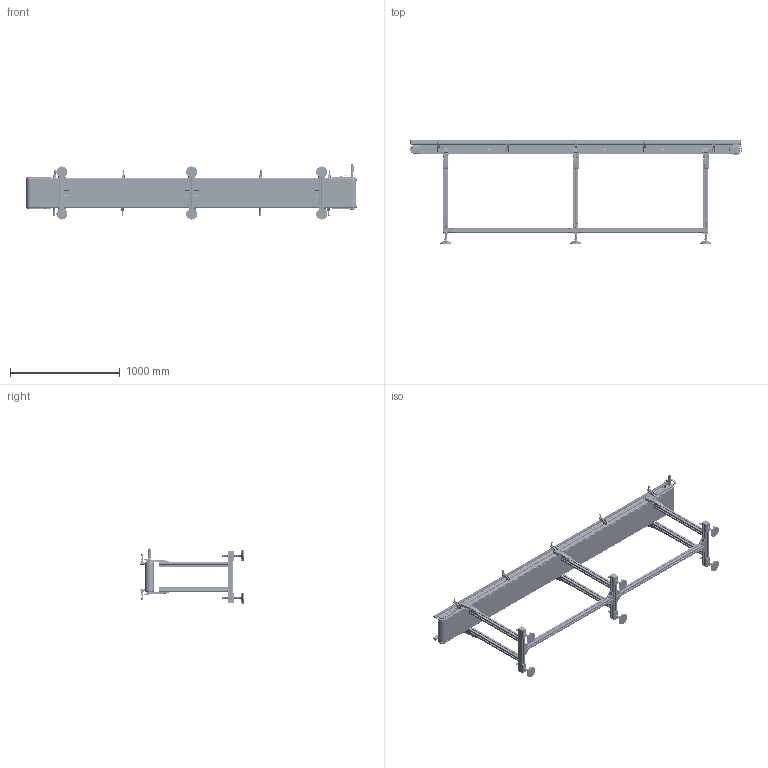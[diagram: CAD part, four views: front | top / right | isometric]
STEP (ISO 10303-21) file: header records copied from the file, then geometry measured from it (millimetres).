
FILE_DESCRIPTION (( 'STEP AP203' ), '1' );
FILE_NAME ('NASTRO_3020.step', '2026-05-04T14:32:00', ( 'Utente Windows' ), ( '' ), 'SwSTEP 2.0', 'SolidWorks 2024', '' );
FILE_SCHEMA (( 'CONFIG_CONTROL_DESIGN' ));
Length unit declared in the file: millimetre
Products named in the file (54): PIEDE; CHIAVETTE_A 8x7x60 UNI 6604-69; 084.807.003_084.807.003<A macchina>; CATENA_3020_DIRITTO; 2010.000.068_L; VITI TSEI UNI 5933 INOX_0410UNI5933A2; 3020.009.149_DX; 2010.000.069; TELAIO_3020_9_1_Default<A macchina>; 084.201.012-1; 084.711.006_L1; 084.712.002; FLANGIA_GAMBA; 084.802.008; 084.307.006; RONDELLE FASCIA LARGA UNI 6593_8.4x24 UNI 6593; 2010.000.068; 084.802.017_084.802.017; 3020.000.005; 084.302.000 DADI ALUSIC 13x13-1_084.302.009; 084.711.010; 084.711.006_L2; NASTRO_3020; 084.402.005; ANGOLARE_43; 084.802.062; GAMBE_3020_Default<A macchina>; 084.305.003-1; 3020.009.002; VITI TE UNI 5739_M8x16 UNI 5739; 2010.000.070; RONDELLE FASCIA LARGA UNI 6593_6.4x24 UNI 6593; RONDELLE UNI 6592_8.4x17 UNI 6592; SPONDA_DIRITTO_Default<A macchina>; 084.802.076_chiuso; 3020.000.007; 084.302.000 DADI ALUSIC 13x13_084.302.004; CHIAVETTE_A 5x5x30 UNI 6604-69; 084.405.001; 084.808.013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
Assembly tree (144 placements, depth 4):
  NASTRO_3020
    CATENA_3020_DIRITTO
    3020.009.149_DX
      084.807.003_084.807.003<A macchina>  x2
      084.802.017_084.802.017  x2
      084.301.000 VITI ALUSIC_084.301.003  x4
      084.302.000 DADI ALUSIC 13x13_084.302.004  x4
      3020.009.006
      VITI TSEI UNI 5933 INOX_0410UNI5933A2  x4
      CHIAVETTE_A 5x5x30 UNI 6604-69  x3
      3020.000.005  x3
      RONDELLE FASCIA LARGA UNI 6593_6.4x24 UNI 6593
      VITI TE UNI 5739_M6x16 UNI 5739
      084.802.077_chiuso
      084.802.078_chiuso con cono
      084.808.013
      VITI TE UNI 5739_M8x16 UNI 5739
      RONDELLE FASCIA LARGA UNI 6593_8.4x24 UNI 6593
      084.802.062
      CHIAVETTE_A 8x7x60 UNI 6604-69
    3020.009.200
      084.802.008  x2
      084.301.000 VITI ALUSIC_084.301.003  x6
      084.302.000 DADI ALUSIC 13x13_084.302.004  x6
      3020.000.007
      3020.009.002
      084.807.014_084.807.002  x2
      084.802.076_chiuso  x2
      VITI TSEI UNI 5933 INOX_0410UNI5933A2  x4
    084.307.006
    TELAIO_3020_9_1_Default<A macchina>
    084.712.002  x4
    084.711.006_PER CAVA 8 PERNO ALTO 1  x10
      084.711.006_L1
      084.711.006_L2
      084.711.007
      084.711.005
      084.711.010
      DADI ESAGONALI NORMALI UNI 5588_M6 UNI 5588
    SPONDA_DIRITTO_Default<A macchina>
    GAMBE_3020_Default<A macchina>  x3
    FLANGIA_GAMBA  x6
      084.302.000 DADI ALUSIC 13x13-1_084.302.004
      RONDELLE UNI 6592_8.4x17 UNI 6592
      084.301.000 VITI ALUSIC_084.301.003
      2010.000.068
        2010.000.068_L
        2010.000.069
        2010.000.070
    PIEDE  x6
      084.405.001
      084.402.005
      084.301.000 VITI ALUSIC1_084.301.003
    084.201.012-1  x12
    ANGOLARE_43  x8
      084.305.003-1
      084.302.000 DADI ALUSIC 13x13-1_084.302.009
      084.301.000 VITI ALUSIC_084.301.003
    TRAVERSA_Default<A macchina>  x2
Bounding box: 3028.49 x 946.15 x 501.9 mm (x, y, z)
Volume: 31891615.8 mm3; surface area: 12771516.8 mm2
Topology: 346 solids, 348 shells, 18984 faces, 49126 edges, 30991 vertices
Faces by surface type: plane 7130, cylinder 6595, bspline 1986, cone 1727, torus 1306, sphere 240
Entity records: 180203 total; most frequent: CARTESIAN_POINT 62707, ORIENTED_EDGE 24002, DIRECTION 21749, EDGE_CURVE 12001, VERTEX_POINT 7710, AXIS2_PLACEMENT_3D 7627, LINE 6495, VECTOR 6495
